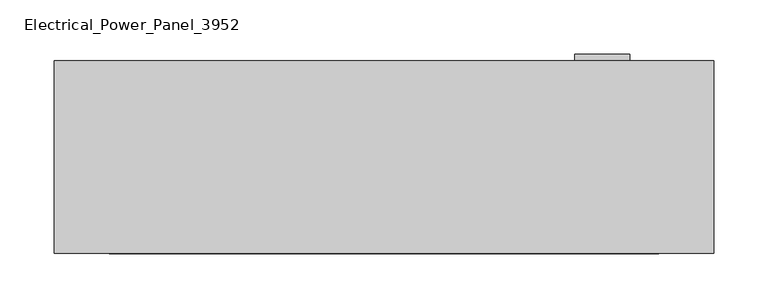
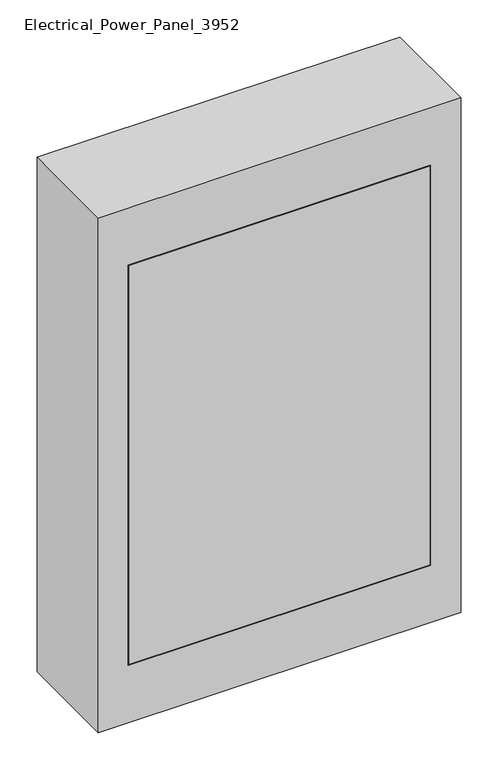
"""IFC4 building model written with IfcOpenShell, lengths in millimetres: proxy geometry."""

from ifc_helpers import new_model, si_unit, frame, origin, place, context, project, spatial, polyline, outline, extrude, source, transform, mapped, element, save


def electrical_power_panel_3952_cbc499cc(model_context):
    return source(origin(), model_context, "Body", "SweptSolid", [
        extrude(outline(polyline([(1384.3, 473.8916868), (1358.9, 473.8916868), (1358.9, 524.6916868), (1384.3, 524.6916868), (1384.3, 473.8916868)]), holes=[polyline([(1377.95, 518.3416868), (1365.25, 518.3416868), (1365.25, 499.2916868), (1377.95, 499.2916868), (1377.95, 518.3416868)])]), frame((0.0, 314.1507129, 0.0), z_axis=(0.0, 1.0, 0.0), x_axis=(0.0, 0.0, 1.0)), (0.0, 0.0, 1.0), 6.35),
        extrude(outline(polyline([(45.2666868, 314.1507129), (550.0916868, 314.1507129), (550.0916868, 136.3507129), (45.2666868, 136.3507129), (45.2666868, 314.1507129)])), frame((0.0, 0.0, 1017.5875), z_axis=(0.0, 0.0, 1.0), x_axis=(1.0, 0.0, 0.0)), (0.0, 0.0, 1.0), 708.025),
        extrude(outline(polyline([(1828.8, -7.1208132), (914.4, -7.1208132), (914.4, 602.4791868), (1828.8, 602.4791868), (1828.8, -7.1208132)]), holes=[polyline([(1727.2, 551.6791868), (1016.0, 551.6791868), (1016.0, 43.6791868), (1727.2, 43.6791868), (1727.2, 551.6791868)])]), frame((0.0, 136.3507129, 0.0), z_axis=(0.0, 1.0, 0.0), x_axis=(0.0, 0.0, 1.0)), (0.0, 0.0, 1.0), 177.8),
    ])


if __name__ == "__main__":
    model = new_model("IFC4")
    model_context = context("Model", 3, world=origin())
    ifc_project = project(units=[si_unit("LENGTHUNIT", "METRE", prefix="MILLI")], contexts=[model_context])
    site = spatial("IfcSite", under=ifc_project)
    building = spatial("IfcBuilding", under=site)
    placement = place(None, origin())
    electrical_power_panel_3952_shape = electrical_power_panel_3952_cbc499cc(model_context)
    element("IfcBuildingElementProxy", 1, Name="Electrical_Power_Panel_3952 : 24\"W. x 36\"H. x 7\"D.", ObjectType="Electrical_Power_Panel_3952 : 24\"W. x 36\"H. x 7\"D.", at=placement, inside=building, context=model_context, shape_type="MappedRepresentation", body=[
        mapped(electrical_power_panel_3952_shape, transform((0.0, 0.0, 0.0), x_axis=(1.0, 0.0, 0.0), y_axis=(0.0, 1.0, 0.0), z_axis=(0.0, 0.0, 1.0))),
    ])
    save(model, "model.ifc")
